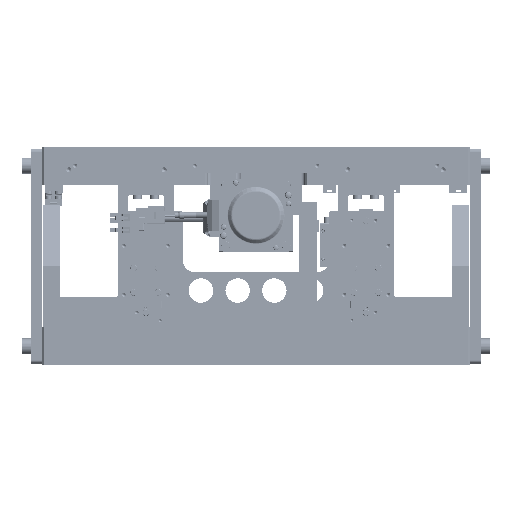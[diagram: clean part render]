
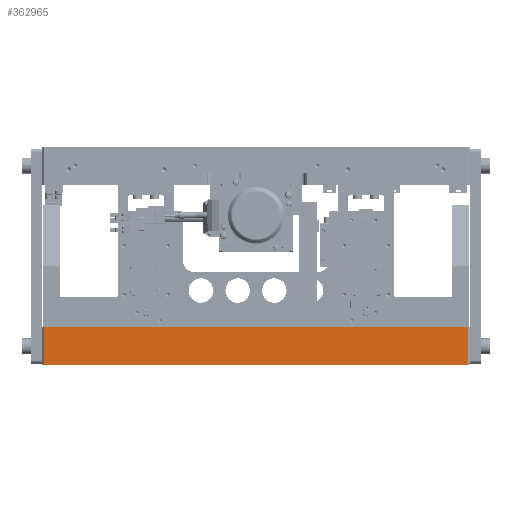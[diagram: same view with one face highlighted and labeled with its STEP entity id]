
A CAD part, left-side view. The second image highlights one B-rep face of the part: STEP entity #362965.
In plain terms, the highlighted planar face has unit normal (-1, 0, 0).
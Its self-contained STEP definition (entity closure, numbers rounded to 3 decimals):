
#316 = VECTOR ( 'NONE', #19437, 1000. ) ;
#1332 = CARTESIAN_POINT ( 'NONE',  ( -172.5, -175., -163.375 ) ) ;
#3191 = VECTOR ( 'NONE', #126506, 1000. ) ;
#6940 = EDGE_CURVE ( 'NONE', #67258, #364053, #307572, .T. ) ;
#17579 = EDGE_CURVE ( 'NONE', #183702, #285137, #291910, .T. ) ;
#19437 = DIRECTION ( 'NONE',  ( 0., 1., 0. ) ) ;
#21516 = FACE_OUTER_BOUND ( 'NONE', #311841, .T. ) ;
#21896 = ORIENTED_EDGE ( 'NONE', *, *, #160283, .F. ) ;
#29058 = VECTOR ( 'NONE', #237322, 1000. ) ;
#29989 = DIRECTION ( 'NONE',  ( 0., 0., -1. ) ) ;
#31945 = VERTEX_POINT ( 'NONE', #203152 ) ;
#34690 = CARTESIAN_POINT ( 'NONE',  ( -172.5, 35., -163.375 ) ) ;
#43211 = CARTESIAN_POINT ( 'NONE',  ( -172.5, 35., -162.875 ) ) ;
#45105 = CARTESIAN_POINT ( 'NONE',  ( -172.5, -105., -162.875 ) ) ;
#46620 = VECTOR ( 'NONE', #29989, 1000. ) ;
#60171 = VERTEX_POINT ( 'NONE', #241228 ) ;
#64757 = CARTESIAN_POINT ( 'NONE',  ( -172.5, -173., -163.375 ) ) ;
#67258 = VERTEX_POINT ( 'NONE', #64757 ) ;
#76053 = ORIENTED_EDGE ( 'NONE', *, *, #143377, .F. ) ;
#77412 = DIRECTION ( 'NONE',  ( 0., 0., -1. ) ) ;
#80126 = VERTEX_POINT ( 'NONE', #45105 ) ;
#80732 = DIRECTION ( 'NONE',  ( 1., 0., 0. ) ) ;
#85766 = VERTEX_POINT ( 'NONE', #214734 ) ;
#86404 = ORIENTED_EDGE ( 'NONE', *, *, #156423, .T. ) ;
#99055 = VECTOR ( 'NONE', #77412, 1000. ) ;
#101920 = DIRECTION ( 'NONE',  ( 0., 1., 0. ) ) ;
#104507 = ORIENTED_EDGE ( 'NONE', *, *, #313909, .F. ) ;
#105609 = LINE ( 'NONE', #299130, #316 ) ;
#110157 = ORIENTED_EDGE ( 'NONE', *, *, #6940, .F. ) ;
#112515 = DIRECTION ( 'NONE',  ( 0., 1., 0. ) ) ;
#112692 = CARTESIAN_POINT ( 'NONE',  ( -172.5, -35., -163.375 ) ) ;
#122515 = LINE ( 'NONE', #255112, #3191 ) ;
#123904 = ORIENTED_EDGE ( 'NONE', *, *, #208108, .F. ) ;
#126506 = DIRECTION ( 'NONE',  ( 0., 0., -1. ) ) ;
#130893 = EDGE_CURVE ( 'NONE', #183702, #31945, #144375, .T. ) ;
#131034 = EDGE_CURVE ( 'NONE', #80126, #364053, #311764, .T. ) ;
#134392 = CARTESIAN_POINT ( 'NONE',  ( -172.5, -173., -132.125 ) ) ;
#142603 = CARTESIAN_POINT ( 'NONE',  ( -172.5, 35., -162.875 ) ) ;
#143377 = EDGE_CURVE ( 'NONE', #295560, #216362, #296528, .T. ) ;
#144375 = LINE ( 'NONE', #269073, #228741 ) ;
#145982 = PLANE ( 'NONE',  #267739 ) ;
#148455 = DIRECTION ( 'NONE',  ( 0., 1., 0. ) ) ;
#151395 = VECTOR ( 'NONE', #112515, 1000. ) ;
#156423 = EDGE_CURVE ( 'NONE', #67258, #239163, #318942, .T. ) ;
#160283 = EDGE_CURVE ( 'NONE', #80126, #295560, #172446, .T. ) ;
#161774 = VECTOR ( 'NONE', #266437, 1000. ) ;
#169467 = CARTESIAN_POINT ( 'NONE',  ( -172.5, -35., -162.875 ) ) ;
#170848 = ORIENTED_EDGE ( 'NONE', *, *, #180895, .T. ) ;
#172446 = LINE ( 'NONE', #297033, #161774 ) ;
#177827 = CARTESIAN_POINT ( 'NONE',  ( -172.5, -175., -163.375 ) ) ;
#180895 = EDGE_CURVE ( 'NONE', #60171, #285216, #122515, .T. ) ;
#183702 = VERTEX_POINT ( 'NONE', #43211 ) ;
#186601 = CARTESIAN_POINT ( 'NONE',  ( -172.5, -105., -163.375 ) ) ;
#189905 = CARTESIAN_POINT ( 'NONE',  ( -172.5, 105., -162.875 ) ) ;
#196302 = CARTESIAN_POINT ( 'NONE',  ( -172.5, -173., -163.375 ) ) ;
#203152 = CARTESIAN_POINT ( 'NONE',  ( -172.5, 105., -162.875 ) ) ;
#207280 = DIRECTION ( 'NONE',  ( 0., -1., 0. ) ) ;
#208108 = EDGE_CURVE ( 'NONE', #216362, #285137, #377764, .T. ) ;
#210942 = VECTOR ( 'NONE', #218660, 1000. ) ;
#214734 = CARTESIAN_POINT ( 'NONE',  ( -172.5, 105., -163.375 ) ) ;
#216362 = VERTEX_POINT ( 'NONE', #112692 ) ;
#218660 = DIRECTION ( 'NONE',  ( 0., 0., -1. ) ) ;
#223536 = ORIENTED_EDGE ( 'NONE', *, *, #396092, .T. ) ;
#227073 = DIRECTION ( 'NONE',  ( 0., 0., 1. ) ) ;
#228741 = VECTOR ( 'NONE', #148455, 1000. ) ;
#229827 = ORIENTED_EDGE ( 'NONE', *, *, #130893, .F. ) ;
#235251 = CARTESIAN_POINT ( 'NONE',  ( -172.5, -35., -162.875 ) ) ;
#235897 = CARTESIAN_POINT ( 'NONE',  ( -172.5, -175., -163.375 ) ) ;
#237322 = DIRECTION ( 'NONE',  ( 0., 0., -1. ) ) ;
#238481 = VECTOR ( 'NONE', #227073, 1000. ) ;
#239163 = VERTEX_POINT ( 'NONE', #134392 ) ;
#241228 = CARTESIAN_POINT ( 'NONE',  ( -172.5, 173., -132.125 ) ) ;
#244579 = VECTOR ( 'NONE', #101920, 1000. ) ;
#255112 = CARTESIAN_POINT ( 'NONE',  ( -172.5, 173., -163.375 ) ) ;
#261730 = ORIENTED_EDGE ( 'NONE', *, *, #17579, .T. ) ;
#265737 = EDGE_CURVE ( 'NONE', #85766, #285216, #267825, .T. ) ;
#266437 = DIRECTION ( 'NONE',  ( 0., 1., 0. ) ) ;
#267739 = AXIS2_PLACEMENT_3D ( 'NONE', #235897, #80732, #207280 ) ;
#267825 = LINE ( 'NONE', #177827, #151395 ) ;
#269073 = CARTESIAN_POINT ( 'NONE',  ( -172.5, 35., -162.875 ) ) ;
#272551 = ORIENTED_EDGE ( 'NONE', *, *, #265737, .F. ) ;
#277058 = DIRECTION ( 'NONE',  ( 0., 1., 0. ) ) ;
#285137 = VERTEX_POINT ( 'NONE', #34690 ) ;
#285216 = VERTEX_POINT ( 'NONE', #293841 ) ;
#289277 = ORIENTED_EDGE ( 'NONE', *, *, #131034, .T. ) ;
#291910 = LINE ( 'NONE', #142603, #99055 ) ;
#293841 = CARTESIAN_POINT ( 'NONE',  ( -172.5, 173., -163.375 ) ) ;
#295560 = VERTEX_POINT ( 'NONE', #169467 ) ;
#296528 = LINE ( 'NONE', #235251, #29058 ) ;
#297033 = CARTESIAN_POINT ( 'NONE',  ( -172.5, -105., -162.875 ) ) ;
#299130 = CARTESIAN_POINT ( 'NONE',  ( -172.5, -175., -132.125 ) ) ;
#307572 = LINE ( 'NONE', #1332, #373483 ) ;
#311764 = LINE ( 'NONE', #377028, #46620 ) ;
#311841 = EDGE_LOOP ( 'NONE', ( #21896, #289277, #110157, #86404, #223536, #170848, #272551, #104507, #229827, #261730, #123904, #76053 ) ) ;
#313909 = EDGE_CURVE ( 'NONE', #31945, #85766, #381810, .T. ) ;
#318942 = LINE ( 'NONE', #196302, #238481 ) ;
#362965 = ADVANCED_FACE ( 'NONE', ( #21516 ), #145982, .F. ) ;
#364053 = VERTEX_POINT ( 'NONE', #186601 ) ;
#373483 = VECTOR ( 'NONE', #277058, 1000. ) ;
#377028 = CARTESIAN_POINT ( 'NONE',  ( -172.5, -105., -162.875 ) ) ;
#377764 = LINE ( 'NONE', #379767, #244579 ) ;
#379767 = CARTESIAN_POINT ( 'NONE',  ( -172.5, -175., -163.375 ) ) ;
#381810 = LINE ( 'NONE', #189905, #210942 ) ;
#396092 = EDGE_CURVE ( 'NONE', #239163, #60171, #105609, .T. ) ;
